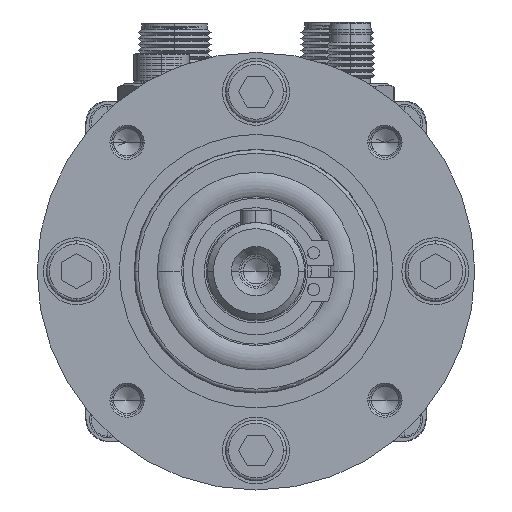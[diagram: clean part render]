
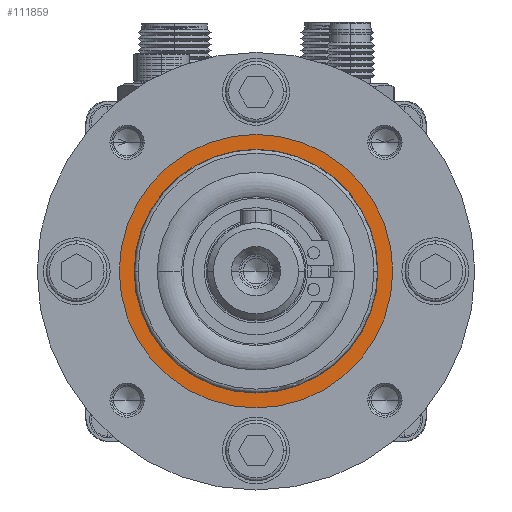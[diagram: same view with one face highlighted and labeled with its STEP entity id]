
A CAD part, left-side view. The second image highlights one B-rep face of the part: STEP entity #111859.
In plain terms, the highlighted planar face has unit normal (-1, 0, 0) as drawn and (1, 0, 0) by its records, which use the part's own axes.
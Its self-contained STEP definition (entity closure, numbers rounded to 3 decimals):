
#6083 = CARTESIAN_POINT ( 'NONE',  ( 38.6, 0., -20.05 ) ) ;
#8376 = DIRECTION ( 'NONE',  ( 0., 0., -1. ) ) ;
#8512 = AXIS2_PLACEMENT_3D ( 'NONE', #65843, #11691, #84354 ) ;
#10471 = CIRCLE ( 'NONE', #20452, 22.5 ) ;
#11691 = DIRECTION ( 'NONE',  ( 1., 0., 0. ) ) ;
#14836 = DIRECTION ( 'NONE',  ( -1., 0., 0. ) ) ;
#18245 = EDGE_CURVE ( 'NONE', #27702, #117086, #65221, .T. ) ;
#20452 = AXIS2_PLACEMENT_3D ( 'NONE', #108392, #89367, #8376 ) ;
#27702 = VERTEX_POINT ( 'NONE', #6083 ) ;
#30416 = FACE_OUTER_BOUND ( 'NONE', #43275, .T. ) ;
#32975 = DIRECTION ( 'NONE',  ( 0., 0., 1. ) ) ;
#33092 = EDGE_CURVE ( 'NONE', #117086, #27702, #39988, .T. ) ;
#35544 = DIRECTION ( 'NONE',  ( 0., 0., -1. ) ) ;
#39988 = CIRCLE ( 'NONE', #43075, 20.05 ) ;
#43075 = AXIS2_PLACEMENT_3D ( 'NONE', #105793, #14836, #32975 ) ;
#43275 = EDGE_LOOP ( 'NONE', ( #64183, #50007 ) ) ;
#46769 = AXIS2_PLACEMENT_3D ( 'NONE', #80621, #89722, #35544 ) ;
#50007 = ORIENTED_EDGE ( 'NONE', *, *, #64385, .F. ) ;
#52027 = CARTESIAN_POINT ( 'NONE',  ( 38.6, 0., 0. ) ) ;
#55529 = CARTESIAN_POINT ( 'NONE',  ( 38.6, 0., 20.05 ) ) ;
#60387 = DIRECTION ( 'NONE',  ( 0., 0., 1. ) ) ;
#61358 = VERTEX_POINT ( 'NONE', #109015 ) ;
#61904 = CARTESIAN_POINT ( 'NONE',  ( 38.6, 0., -22.5 ) ) ;
#64183 = ORIENTED_EDGE ( 'NONE', *, *, #88108, .F. ) ;
#64385 = EDGE_CURVE ( 'NONE', #61358, #105503, #86913, .T. ) ;
#65221 = CIRCLE ( 'NONE', #108030, 20.05 ) ;
#65843 = CARTESIAN_POINT ( 'NONE',  ( 38.6, 0., 0. ) ) ;
#80621 = CARTESIAN_POINT ( 'NONE',  ( 38.6, 0., 0. ) ) ;
#81428 = EDGE_LOOP ( 'NONE', ( #82865, #99290 ) ) ;
#82865 = ORIENTED_EDGE ( 'NONE', *, *, #33092, .T. ) ;
#84354 = DIRECTION ( 'NONE',  ( 0., 0., -1. ) ) ;
#86913 = CIRCLE ( 'NONE', #46769, 22.5 ) ;
#88108 = EDGE_CURVE ( 'NONE', #105503, #61358, #10471, .T. ) ;
#89367 = DIRECTION ( 'NONE',  ( -1., 0., 0. ) ) ;
#89722 = DIRECTION ( 'NONE',  ( -1., 0., 0. ) ) ;
#94117 = FACE_BOUND ( 'NONE', #81428, .T. ) ;
#99290 = ORIENTED_EDGE ( 'NONE', *, *, #18245, .T. ) ;
#102263 = PLANE ( 'NONE',  #8512 ) ;
#105503 = VERTEX_POINT ( 'NONE', #61904 ) ;
#105793 = CARTESIAN_POINT ( 'NONE',  ( 38.6, 0., 0. ) ) ;
#105843 = DIRECTION ( 'NONE',  ( -1., 0., 0. ) ) ;
#108030 = AXIS2_PLACEMENT_3D ( 'NONE', #52027, #105843, #60387 ) ;
#108392 = CARTESIAN_POINT ( 'NONE',  ( 38.6, 0., 0. ) ) ;
#109015 = CARTESIAN_POINT ( 'NONE',  ( 38.6, 0., 22.5 ) ) ;
#111859 = ADVANCED_FACE ( 'NONE', ( #30416, #94117 ), #102263, .T. ) ;
#117086 = VERTEX_POINT ( 'NONE', #55529 ) ;
